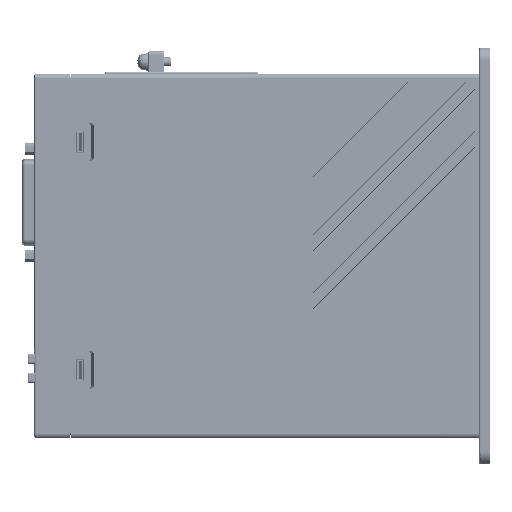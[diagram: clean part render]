
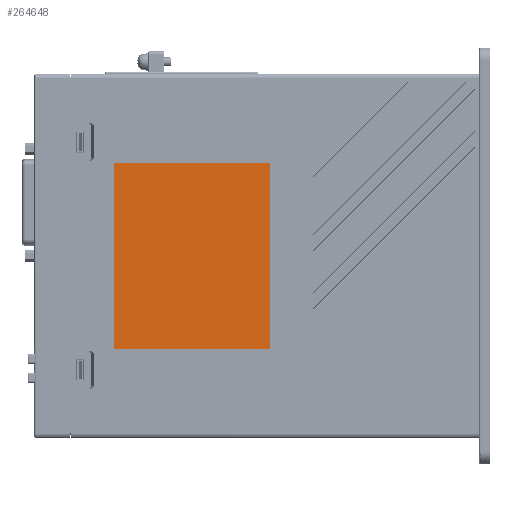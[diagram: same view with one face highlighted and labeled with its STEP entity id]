
A CAD part, left-side view. The second image highlights one B-rep face of the part: STEP entity #264648.
In plain terms, the highlighted planar face has unit normal (-1, 0, 0).
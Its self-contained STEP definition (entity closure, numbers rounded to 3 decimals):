
#241220=DIRECTION('',(0.,1.,0.));
#241221=VECTOR('',#241220,67.5);
#241222=CARTESIAN_POINT('',(0.3,97.,-50.501));
#241223=LINE('',#241222,#241221);
#241232=CARTESIAN_POINT('',(0.3,164.5,-132.001));
#241233=DIRECTION('',(1.,0.,0.));
#241234=DIRECTION('',(0.,0.,-1.));
#241235=AXIS2_PLACEMENT_3D('',#241232,#241233,#241234);
#241237=CARTESIAN_POINT('',(0.3,164.5,-51.001));
#241238=DIRECTION('',(1.,0.,0.));
#241239=DIRECTION('',(0.,1.,0.));
#241240=AXIS2_PLACEMENT_3D('',#241237,#241238,#241239);
#241242=CARTESIAN_POINT('',(0.3,97.,-51.001));
#241243=DIRECTION('',(1.,0.,0.));
#241244=DIRECTION('',(0.,0.,1.));
#241245=AXIS2_PLACEMENT_3D('',#241242,#241243,#241244);
#241247=CARTESIAN_POINT('',(0.3,97.,-132.001));
#241248=DIRECTION('',(1.,0.,0.));
#241249=DIRECTION('',(0.,-1.,0.));
#241250=AXIS2_PLACEMENT_3D('',#241247,#241248,#241249);
#241260=DIRECTION('',(0.,-1.,0.));
#241261=VECTOR('',#241260,67.5);
#241262=CARTESIAN_POINT('',(0.3,164.5,-132.501));
#241263=LINE('',#241262,#241261);
#241272=DIRECTION('',(0.,0.,1.));
#241273=VECTOR('',#241272,81.);
#241274=CARTESIAN_POINT('',(0.3,96.5,-132.001));
#241275=LINE('',#241274,#241273);
#241284=DIRECTION('',(0.,0.,-1.));
#241285=VECTOR('',#241284,81.);
#241286=CARTESIAN_POINT('',(0.3,165.,-51.001));
#241287=LINE('',#241286,#241285);
#244523=CARTESIAN_POINT('',(0.3,164.5,-50.501));
#244524=VERTEX_POINT('',#244523);
#244525=CARTESIAN_POINT('',(0.3,97.,-50.501));
#244526=VERTEX_POINT('',#244525);
#244527=CARTESIAN_POINT('',(0.3,165.,-51.001));
#244528=VERTEX_POINT('',#244527);
#244529=CARTESIAN_POINT('',(0.3,164.5,-132.501));
#244530=CARTESIAN_POINT('',(0.3,165.,-132.001));
#244531=VERTEX_POINT('',#244529);
#244532=VERTEX_POINT('',#244530);
#244533=CARTESIAN_POINT('',(0.3,96.5,-51.001));
#244534=VERTEX_POINT('',#244533);
#244535=CARTESIAN_POINT('',(0.3,96.5,-132.001));
#244536=VERTEX_POINT('',#244535);
#244537=CARTESIAN_POINT('',(0.3,97.,-132.501));
#244538=VERTEX_POINT('',#244537);
#264627=CARTESIAN_POINT('',(0.3,5.,-91.501));
#264628=DIRECTION('',(-1.,0.,0.));
#264629=DIRECTION('',(0.,0.,1.));
#264630=AXIS2_PLACEMENT_3D('',#264627,#264628,#264629);
#264631=PLANE('',#264630);
#264633=ORIENTED_EDGE('',*,*,#264632,.T.);
#264635=ORIENTED_EDGE('',*,*,#264634,.F.);
#264636=ORIENTED_EDGE('',*,*,#264611,.T.);
#264637=ORIENTED_EDGE('',*,*,#264594,.F.);
#264639=ORIENTED_EDGE('',*,*,#264638,.T.);
#264641=ORIENTED_EDGE('',*,*,#264640,.F.);
#264643=ORIENTED_EDGE('',*,*,#264642,.T.);
#264645=ORIENTED_EDGE('',*,*,#264644,.F.);
#264646=EDGE_LOOP('',(#264633,#264635,#264636,#264637,#264639,#264641,#264643,
#264645));
#264647=FACE_OUTER_BOUND('',#264646,.F.);
#241236=CIRCLE('',#241235,0.5);
#241241=CIRCLE('',#241240,0.5);
#241246=CIRCLE('',#241245,0.5);
#241251=CIRCLE('',#241250,0.5);
#264594=EDGE_CURVE('',#244526,#244524,#241223,.T.);
#264611=EDGE_CURVE('',#244528,#244524,#241241,.T.);
#264632=EDGE_CURVE('',#244531,#244532,#241236,.T.);
#264634=EDGE_CURVE('',#244528,#244532,#241287,.T.);
#264638=EDGE_CURVE('',#244526,#244534,#241246,.T.);
#264640=EDGE_CURVE('',#244536,#244534,#241275,.T.);
#264642=EDGE_CURVE('',#244536,#244538,#241251,.T.);
#264644=EDGE_CURVE('',#244531,#244538,#241263,.T.);
#264648=ADVANCED_FACE('',(#264647),#264631,.T.);
